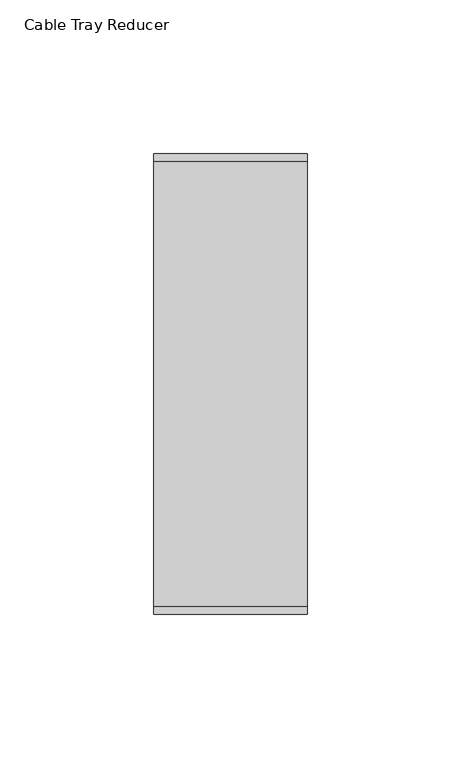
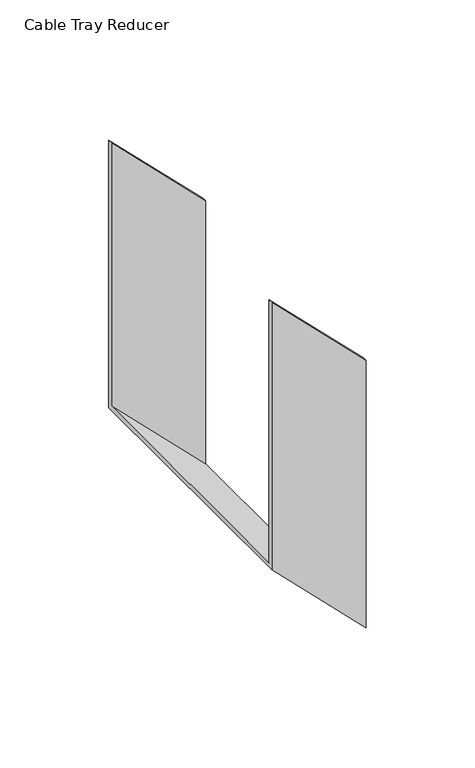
"""IFC4 building model written with IfcOpenShell, lengths in millimetres: cable carrier fitting geometry, Cable Tray Reducer : ELEC_ELV_TKG_N2402."""

from ifc_helpers import new_model, si_unit, origin, place, context, project, spatial, faceted_brep, source, transform, mapped, element, save


def cable_tray_reducer_cdb0313a(model_context):
    return source(origin(), model_context, "Body", "Brep", [
        faceted_brep([(50.0, -75.0, -124.9999994), (50.0, 75.0, -124.9999994), (50.0, 75.0, 25.0000006), (50.0, 72.46, 25.0000006), (50.0, 72.46, -122.4599994), (50.0, -72.46, -122.4599994), (50.0, -72.46, 25.0000006), (50.0, -75.0, 25.0000006), (0.0, -75.0, -75.0), (0.0, -75.0, 75.0), (0.0, -72.46, 75.0), (0.0, -72.46, -72.46), (0.0, 72.46, -72.46), (0.0, 72.46, 75.0), (0.0, 75.0, 75.0), (0.0, 75.0, -75.0)], [[[0, 1, 2, 3, 4, 5, 6, 7]], [[8, 9, 10, 11, 12, 13, 14, 15]], [[8, 15, 1, 0]], [[15, 14, 2, 1]], [[14, 13, 3, 2]], [[13, 12, 4, 3]], [[12, 11, 5, 4]], [[11, 10, 6, 5]], [[10, 9, 7, 6]], [[9, 8, 0, 7]]]),
    ])


if __name__ == "__main__":
    model = new_model("IFC4")
    model_context = context("Model", 3, world=origin())
    ifc_project = project(units=[si_unit("LENGTHUNIT", "METRE", prefix="MILLI")], contexts=[model_context])
    site = spatial("IfcSite", under=ifc_project)
    building = spatial("IfcBuilding", under=site)
    placement = place(None, origin())
    cable_tray_reducer_shape = cable_tray_reducer_cdb0313a(model_context)
    element("IfcCableCarrierFitting", 1, ObjectType="Cable Tray Reducer : ELEC_ELV_TKG_N2402", at=placement, inside=building, context=model_context, shape_type="MappedRepresentation", body=[
        mapped(cable_tray_reducer_shape, transform((0.0, 0.0, 0.0), x_axis=(1.0, 0.0, 0.0), y_axis=(0.0, 1.0, 0.0), z_axis=(0.0, 0.0, 1.0))),
    ])
    save(model, "model.ifc")
